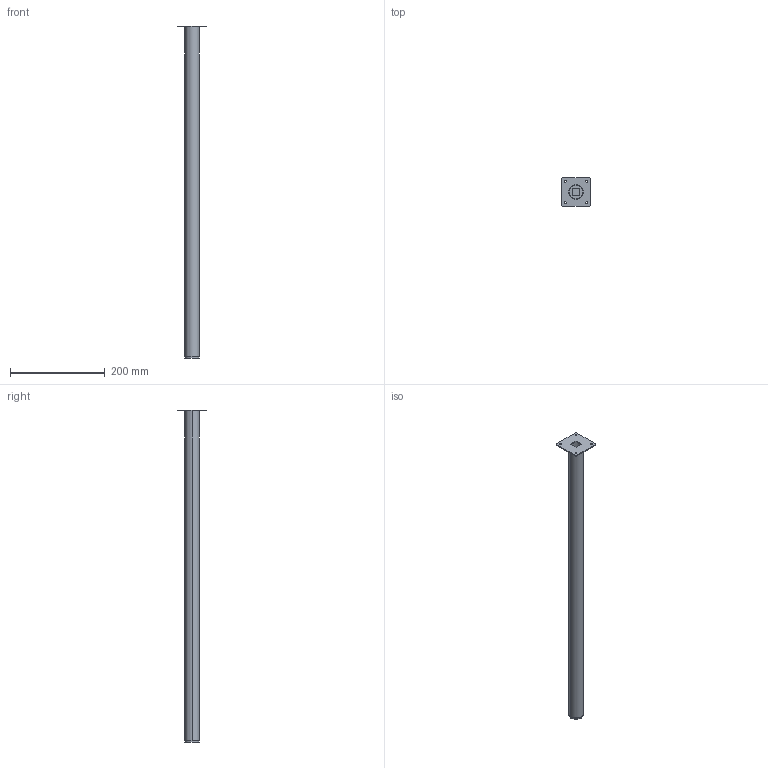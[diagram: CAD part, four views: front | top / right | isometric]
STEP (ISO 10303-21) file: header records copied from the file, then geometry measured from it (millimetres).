
FILE_DESCRIPTION( ( '' ), '1' );
FILE_NAME( 'D:/temp/hettich_stp/hettich/6.5_furniture_legs/table_legs/1227.stp', '2013-02-26T12:27:27', ( '' ), ( '' ), ' ', ' ', ' ' );
FILE_SCHEMA( ( 'automotive_design' ) );
Length unit declared in the file: millimetre
Products named in the file (1): 1
Bounding box: 60 x 60 x 700 mm (x, y, z)
Volume: 72001.9 mm3; surface area: 135613.3 mm2
Topology: 1 solids, 1 shells, 35 faces, 84 edges, 56 vertices
Faces by surface type: cylinder 20, plane 15
Entity records: 2058 total; most frequent: DIRECTION 196, STYLED_ITEM 176, PRESENTATION_STYLE_ASSIGNMENT 176, CARTESIAN_POINT 176, COLOUR_RGB 176, ORIENTED_EDGE 168, EDGE_CURVE 84, CURVE_STYLE 84
